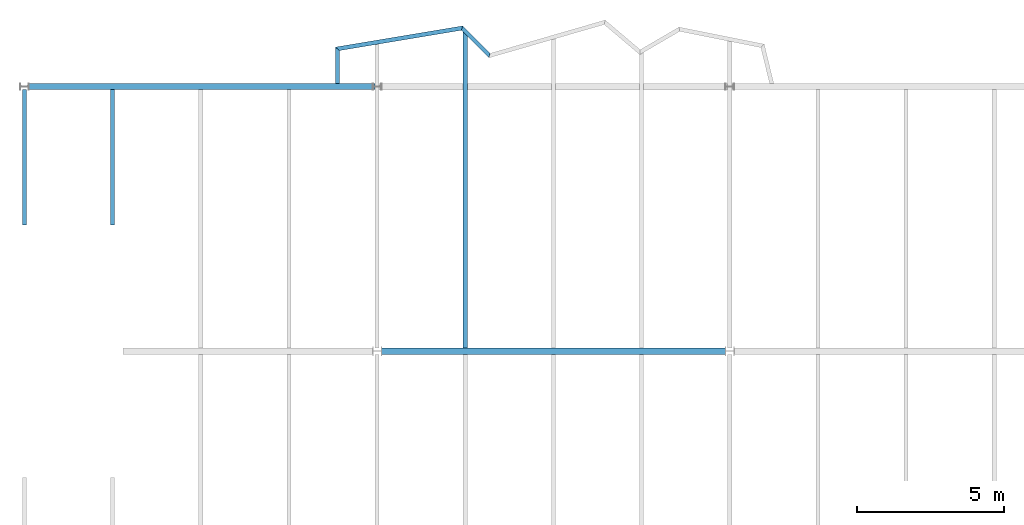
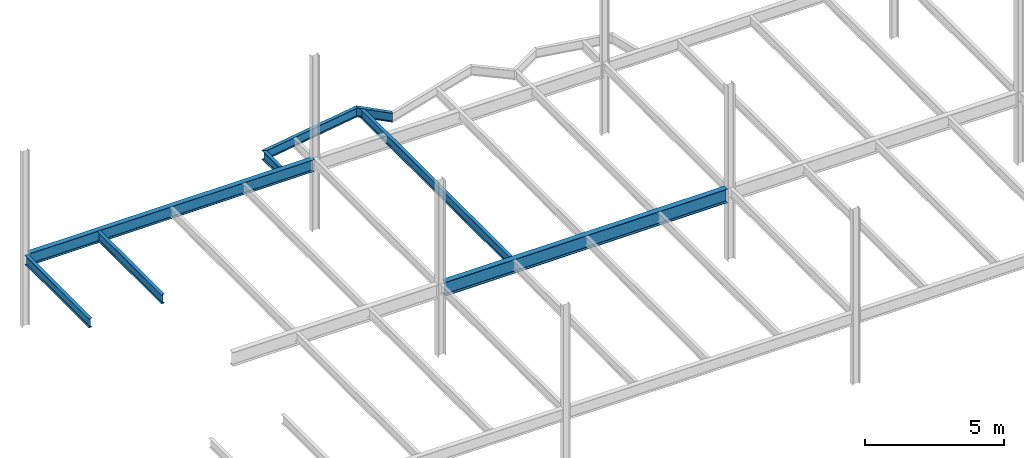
# One storey, part 5 of 23: 8 beams.
"""IFC2X3 building model written with IfcOpenShell, lengths in millimetres."""

from ifc_helpers import new_model, si_unit, origin, place, context, project, spatial, faceted_brep, material, element, save


model = new_model("IFC2X3")

# Units and contexts
context_of_model = context(None, 3, precision=1e-05, world=origin())
ifc_project = project(units=[si_unit("LENGTHUNIT", "METRE", prefix="MILLI")], contexts=[context_of_model])

# Building, storey
building = spatial("IfcBuilding", under=ifc_project, Name="Building", CompositionType="ELEMENT")
storey = spatial("IfcBuildingStorey", under=building, Name="FL5-FRM", CompositionType="ELEMENT")

# Beams
ifc_material_1 = material(Name="A992")
beam_1_placement = place(None, origin())
element("IfcBeam", 1, at=beam_1_placement, inside=storey, material=ifc_material_1, Name="Column402", context=context_of_model, shape_type="Brep", body=[
    faceted_brep([(-47846.0, 26885.5, 17261.0), (-47846.0, 27114.5, 17261.0), (-36154.0, 27114.5, 17261.0), (-36154.0, 26885.5, 17261.0), (-47846.0, 27114.5, 17280.6), (-36154.0, 27114.5, 17280.6), (-47846.0, 27018.6, 17280.6), (-36154.0, 27018.6, 17280.6), (-47846.0, 27015.4, 17281.0), (-36154.0, 27015.4, 17281.0), (-47846.0, 27012.3, 17282.3), (-36154.0, 27012.3, 17282.3), (-47846.0, 27009.7, 17284.3), (-36154.0, 27009.7, 17284.3), (-47846.0, 27007.7, 17287.0), (-36154.0, 27007.7, 17287.0), (-47846.0, 27006.4, 17290.0), (-36154.0, 27006.4, 17290.0), (-47846.0, 27005.9, 17293.3), (-36154.0, 27005.9, 17293.3), (-47846.0, 27005.9, 17840.7), (-36154.0, 27005.9, 17840.7), (-47846.0, 27006.4, 17844.0), (-36154.0, 27006.4, 17844.0), (-47846.0, 27007.7, 17847.0), (-36154.0, 27007.7, 17847.0), (-47846.0, 27009.7, 17849.7), (-36154.0, 27009.7, 17849.7), (-47846.0, 27012.3, 17851.7), (-36154.0, 27012.3, 17851.7), (-47846.0, 27015.4, 17853.0), (-36154.0, 27015.4, 17853.0), (-47846.0, 27018.6, 17853.4), (-36154.0, 27018.6, 17853.4), (-47846.0, 27114.5, 17853.4), (-36154.0, 27114.5, 17853.4), (-47846.0, 27114.5, 17873.0), (-36154.0, 27114.5, 17873.0), (-47846.0, 26885.5, 17873.0), (-36154.0, 26885.5, 17873.0), (-47846.0, 26885.5, 17853.4), (-36154.0, 26885.5, 17853.4), (-47846.0, 26981.4, 17853.4), (-36154.0, 26981.4, 17853.4), (-47846.0, 26984.6, 17853.0), (-36154.0, 26984.6, 17853.0), (-47846.0, 26987.7, 17851.7), (-36154.0, 26987.7, 17851.7), (-47846.0, 26990.3, 17849.7), (-36154.0, 26990.3, 17849.7), (-47846.0, 26992.3, 17847.0), (-36154.0, 26992.3, 17847.0), (-47846.0, 26993.6, 17844.0), (-36154.0, 26993.6, 17844.0), (-47846.0, 26994.1, 17840.7), (-36154.0, 26994.1, 17840.7), (-47846.0, 26994.1, 17293.3), (-36154.0, 26994.1, 17293.3), (-47846.0, 26993.6, 17290.0), (-36154.0, 26993.6, 17290.0), (-47846.0, 26992.3, 17287.0), (-36154.0, 26992.3, 17287.0), (-47846.0, 26990.3, 17284.3), (-36154.0, 26990.3, 17284.3), (-47846.0, 26987.7, 17282.3), (-36154.0, 26987.7, 17282.3), (-47846.0, 26984.6, 17281.0), (-36154.0, 26984.6, 17281.0), (-47846.0, 26981.4, 17280.6), (-36154.0, 26981.4, 17280.6), (-47846.0, 26885.5, 17280.6), (-36154.0, 26885.5, 17280.6)], [[[0, 1, 2, 3]], [[1, 4, 5, 2]], [[4, 6, 7, 5]], [[6, 8, 9, 7]], [[8, 10, 11, 9]], [[10, 12, 13, 11]], [[12, 14, 15, 13]], [[14, 16, 17, 15]], [[16, 18, 19, 17]], [[18, 20, 21, 19]], [[20, 22, 23, 21]], [[22, 24, 25, 23]], [[24, 26, 27, 25]], [[26, 28, 29, 27]], [[28, 30, 31, 29]], [[30, 32, 33, 31]], [[32, 34, 35, 33]], [[34, 36, 37, 35]], [[36, 38, 39, 37]], [[38, 40, 41, 39]], [[40, 42, 43, 41]], [[42, 44, 45, 43]], [[44, 46, 47, 45]], [[46, 48, 49, 47]], [[48, 50, 51, 49]], [[50, 52, 53, 51]], [[52, 54, 55, 53]], [[54, 56, 57, 55]], [[56, 58, 59, 57]], [[58, 60, 61, 59]], [[60, 62, 63, 61]], [[62, 64, 65, 63]], [[64, 66, 67, 65]], [[66, 68, 69, 67]], [[68, 70, 71, 69]], [[70, 0, 3, 71]], [[0, 70, 68, 66, 64, 62, 60, 58, 56, 54, 52, 50, 48, 46, 44, 42, 40, 38, 36, 34, 32, 30, 28, 26, 24, 22, 20, 18, 16, 14, 12, 10, 8, 6, 4, 1]], [[3, 2, 5, 7, 9, 11, 13, 15, 17, 19, 21, 23, 25, 27, 29, 31, 33, 35, 37, 39, 41, 43, 45, 47, 49, 51, 53, 55, 57, 59, 61, 63, 65, 67, 69, 71]]]),
])
ifc_material_2 = material(Name="A992")
beam_2_placement = place(None, origin())
element("IfcBeam", 2, at=beam_2_placement, inside=storey, material=ifc_material_2, Name="B253", context=context_of_model, shape_type="Brep", body=[
    faceted_brep([(-45070.0, 37851.8, 17474.0), (-44930.0, 37711.8, 17474.0), (-44930.0, 27114.5, 17474.0), (-45070.0, 27114.5, 17474.0), (-44930.0, 37711.8, 17482.8), (-44930.0, 27114.5, 17482.8), (-44986.6, 37768.4, 17482.8), (-44986.6, 27114.5, 17482.8), (-44988.0, 37769.8, 17482.9), (-44988.1, 27114.5, 17482.9), (-44989.5, 37771.2, 17483.2), (-44989.5, 27114.5, 17483.2), (-44990.8, 37772.6, 17483.7), (-44990.8, 27114.5, 17483.7), (-44992.1, 37773.8, 17484.4), (-44992.1, 27114.5, 17484.4), (-44993.3, 37775.0, 17485.3), (-44993.3, 27114.5, 17485.3), (-44994.3, 37776.0, 17486.3), (-44994.3, 27114.5, 17486.3), (-44995.2, 37776.9, 17487.4), (-44995.2, 27114.5, 17487.5), (-44995.9, 37777.6, 17488.7), (-44995.9, 27114.5, 17488.8), (-44996.4, 37778.1, 17490.1), (-44996.4, 27114.5, 17490.1), (-44996.7, 37778.4, 17491.5), (-44996.7, 27114.5, 17491.5), (-44996.8, 37778.6, 17493.0), (-44996.8, 27114.5, 17493.0), (-44996.8, 37778.6, 17854.0), (-44996.8, 27114.5, 17854.0), (-44996.7, 37778.4, 17855.5), (-44996.7, 27114.5, 17855.5), (-44996.4, 37778.1, 17856.9), (-44996.4, 27114.5, 17856.9), (-44995.9, 37777.6, 17858.3), (-44995.9, 27114.5, 17858.2), (-44995.2, 37776.9, 17859.6), (-44995.2, 27114.5, 17859.5), (-44994.3, 37776.0, 17860.7), (-44994.3, 27114.5, 17860.7), (-44993.3, 37775.0, 17861.7), (-44993.3, 27114.5, 17861.7), (-44992.1, 37773.8, 17862.6), (-44992.1, 27114.5, 17862.6), (-44990.8, 37772.6, 17863.3), (-44990.8, 27114.5, 17863.3), (-44989.5, 37771.2, 17863.8), (-44989.5, 27114.5, 17863.8), (-44988.0, 37769.8, 17864.1), (-44988.1, 27114.5, 17864.1), (-44986.6, 37768.4, 17864.2), (-44986.6, 27114.5, 17864.2), (-44930.0, 37711.8, 17864.2), (-44930.0, 27114.5, 17864.2), (-44930.0, 37711.8, 17873.0), (-44930.0, 27114.5, 17873.0), (-45070.0, 37851.8, 17873.0), (-45070.0, 27114.5, 17873.0), (-45070.0, 37851.8, 17864.2), (-45070.0, 27114.5, 17864.2), (-45013.4, 37795.2, 17864.2), (-45013.4, 27114.5, 17864.2), (-45012.0, 37793.7, 17864.1), (-45011.9, 27114.5, 17864.1), (-45010.5, 37792.3, 17863.8), (-45010.5, 27114.5, 17863.8), (-45009.2, 37790.9, 17863.3), (-45009.2, 27114.5, 17863.3), (-45007.9, 37789.7, 17862.6), (-45007.9, 27114.5, 17862.6), (-45006.7, 37788.5, 17861.7), (-45006.7, 27114.5, 17861.7), (-45005.7, 37787.5, 17860.7), (-45005.7, 27114.5, 17860.7), (-45004.8, 37786.6, 17859.6), (-45004.8, 27114.5, 17859.5), (-45004.1, 37785.9, 17858.3), (-45004.1, 27114.5, 17858.2), (-45003.6, 37785.4, 17856.9), (-45003.6, 27114.5, 17856.9), (-45003.3, 37785.1, 17855.5), (-45003.3, 27114.5, 17855.5), (-45003.2, 37785.0, 17854.0), (-45003.2, 27114.5, 17854.0), (-45003.2, 37785.0, 17493.0), (-45003.2, 27114.5, 17493.0), (-45003.3, 37785.1, 17491.5), (-45003.3, 27114.5, 17491.5), (-45003.6, 37785.4, 17490.1), (-45003.6, 27114.5, 17490.1), (-45004.1, 37785.9, 17488.7), (-45004.1, 27114.5, 17488.8), (-45004.8, 37786.6, 17487.4), (-45004.8, 27114.5, 17487.5), (-45005.7, 37787.5, 17486.3), (-45005.7, 27114.5, 17486.3), (-45006.7, 37788.5, 17485.3), (-45006.7, 27114.5, 17485.3), (-45007.9, 37789.7, 17484.4), (-45007.9, 27114.5, 17484.4), (-45009.2, 37790.9, 17483.7), (-45009.2, 27114.5, 17483.7), (-45010.5, 37792.3, 17483.2), (-45010.5, 27114.5, 17483.2), (-45012.0, 37793.7, 17482.9), (-45011.9, 27114.5, 17482.9), (-45013.4, 37795.2, 17482.8), (-45013.4, 27114.5, 17482.8), (-45070.0, 37851.8, 17482.8), (-45070.0, 27114.5, 17482.8)], [[[0, 1, 2, 3]], [[1, 4, 5, 2]], [[4, 6, 7, 5]], [[6, 8, 9, 7]], [[8, 10, 11, 9]], [[10, 12, 13, 11]], [[12, 14, 15, 13]], [[14, 16, 17, 15]], [[16, 18, 19, 17]], [[18, 20, 21, 19]], [[20, 22, 23, 21]], [[22, 24, 25, 23]], [[24, 26, 27, 25]], [[26, 28, 29, 27]], [[28, 30, 31, 29]], [[30, 32, 33, 31]], [[32, 34, 35, 33]], [[34, 36, 37, 35]], [[36, 38, 39, 37]], [[38, 40, 41, 39]], [[40, 42, 43, 41]], [[42, 44, 45, 43]], [[44, 46, 47, 45]], [[46, 48, 49, 47]], [[48, 50, 51, 49]], [[50, 52, 53, 51]], [[52, 54, 55, 53]], [[54, 56, 57, 55]], [[56, 58, 59, 57]], [[58, 60, 61, 59]], [[60, 62, 63, 61]], [[62, 64, 65, 63]], [[64, 66, 67, 65]], [[66, 68, 69, 67]], [[68, 70, 71, 69]], [[70, 72, 73, 71]], [[72, 74, 75, 73]], [[74, 76, 77, 75]], [[76, 78, 79, 77]], [[78, 80, 81, 79]], [[80, 82, 83, 81]], [[82, 84, 85, 83]], [[84, 86, 87, 85]], [[86, 88, 89, 87]], [[88, 90, 91, 89]], [[90, 92, 93, 91]], [[92, 94, 95, 93]], [[94, 96, 97, 95]], [[96, 98, 99, 97]], [[98, 100, 101, 99]], [[100, 102, 103, 101]], [[102, 104, 105, 103]], [[104, 106, 107, 105]], [[106, 108, 109, 107]], [[108, 110, 111, 109]], [[110, 0, 3, 111]], [[0, 110, 108, 106, 104, 102, 100, 98, 96, 94, 92, 90, 88, 86, 84, 82, 80, 78, 76, 74, 72, 70, 68, 66, 64, 62, 60, 58, 56, 54, 52, 50, 48, 46, 44, 42, 40, 38, 36, 34, 32, 30, 28, 26, 24, 22, 20, 18, 16, 14, 12, 10, 8, 6, 4, 1]], [[3, 2, 5, 7, 9, 11, 13, 15, 17, 19, 21, 23, 25, 27, 29, 31, 33, 35, 37, 39, 41, 43, 45, 47, 49, 51, 53, 55, 57, 59, 61, 63, 65, 67, 69, 71, 73, 75, 77, 79, 81, 83, 85, 87, 89, 91, 93, 95, 97, 99, 101, 103, 105, 107, 109, 111]]]),
])
ifc_material_3 = material(Name="A992")
beam_3_placement = place(None, origin())
element("IfcBeam", 3, at=beam_3_placement, inside=storey, material=ifc_material_3, Name="Column409", context=context_of_model, shape_type="Brep", body=[
    faceted_brep([(-59848.5, 35895.5, 17345.0), (-59848.5, 36104.5, 17345.0), (-48070.0, 36104.5, 17345.0), (-48070.0, 35895.5, 17345.0), (-59848.5, 36104.5, 17358.3), (-48070.0, 36104.5, 17358.3), (-59848.5, 36017.4, 17358.3), (-48070.0, 36017.4, 17358.3), (-59848.5, 36014.2, 17358.7), (-48070.0, 36014.2, 17358.7), (-59848.5, 36011.1, 17360.0), (-48070.0, 36011.1, 17360.0), (-59848.5, 36008.5, 17362.0), (-48070.0, 36008.5, 17362.0), (-59848.5, 36006.5, 17364.7), (-48070.0, 36006.5, 17364.7), (-59848.5, 36005.2, 17367.7), (-48070.0, 36005.2, 17367.7), (-59848.5, 36004.8, 17371.0), (-48070.0, 36004.8, 17371.0), (-59848.5, 36004.8, 17847.0), (-48070.0, 36004.8, 17847.0), (-59848.5, 36005.2, 17850.3), (-48070.0, 36005.2, 17850.3), (-59848.5, 36006.5, 17853.3), (-48070.0, 36006.5, 17853.3), (-59848.5, 36008.5, 17856.0), (-48070.0, 36008.5, 17856.0), (-59848.5, 36011.1, 17858.0), (-48070.0, 36011.1, 17858.0), (-59848.5, 36014.2, 17859.3), (-48070.0, 36014.2, 17859.3), (-59848.5, 36017.4, 17859.7), (-48070.0, 36017.4, 17859.7), (-59848.5, 36104.5, 17859.7), (-48070.0, 36104.5, 17859.7), (-59848.5, 36104.5, 17873.0), (-48070.0, 36104.5, 17873.0), (-59848.5, 35895.5, 17873.0), (-48070.0, 35895.5, 17873.0), (-59848.5, 35895.5, 17859.7), (-48070.0, 35895.5, 17859.7), (-59848.5, 35982.6, 17859.7), (-48070.0, 35982.6, 17859.7), (-59848.5, 35985.8, 17859.3), (-48070.0, 35985.8, 17859.3), (-59848.5, 35988.9, 17858.0), (-48070.0, 35988.9, 17858.0), (-59848.5, 35991.5, 17856.0), (-48070.0, 35991.5, 17856.0), (-59848.5, 35993.5, 17853.3), (-48070.0, 35993.5, 17853.3), (-59848.5, 35994.8, 17850.3), (-48070.0, 35994.8, 17850.3), (-59848.5, 35995.3, 17847.0), (-48070.0, 35995.3, 17847.0), (-59848.5, 35995.3, 17371.0), (-48070.0, 35995.3, 17371.0), (-59848.5, 35994.8, 17367.7), (-48070.0, 35994.8, 17367.7), (-59848.5, 35993.5, 17364.7), (-48070.0, 35993.5, 17364.7), (-59848.5, 35991.5, 17362.0), (-48070.0, 35991.5, 17362.0), (-59848.5, 35988.9, 17360.0), (-48070.0, 35988.9, 17360.0), (-59848.5, 35985.8, 17358.7), (-48070.0, 35985.8, 17358.7), (-59848.5, 35982.6, 17358.3), (-48070.0, 35982.6, 17358.3), (-59848.5, 35895.5, 17358.3), (-48070.0, 35895.5, 17358.3)], [[[0, 1, 2, 3]], [[1, 4, 5, 2]], [[4, 6, 7, 5]], [[6, 8, 9, 7]], [[8, 10, 11, 9]], [[10, 12, 13, 11]], [[12, 14, 15, 13]], [[14, 16, 17, 15]], [[16, 18, 19, 17]], [[18, 20, 21, 19]], [[20, 22, 23, 21]], [[22, 24, 25, 23]], [[24, 26, 27, 25]], [[26, 28, 29, 27]], [[28, 30, 31, 29]], [[30, 32, 33, 31]], [[32, 34, 35, 33]], [[34, 36, 37, 35]], [[36, 38, 39, 37]], [[38, 40, 41, 39]], [[40, 42, 43, 41]], [[42, 44, 45, 43]], [[44, 46, 47, 45]], [[46, 48, 49, 47]], [[48, 50, 51, 49]], [[50, 52, 53, 51]], [[52, 54, 55, 53]], [[54, 56, 57, 55]], [[56, 58, 59, 57]], [[58, 60, 61, 59]], [[60, 62, 63, 61]], [[62, 64, 65, 63]], [[64, 66, 67, 65]], [[66, 68, 69, 67]], [[68, 70, 71, 69]], [[70, 0, 3, 71]], [[0, 70, 68, 66, 64, 62, 60, 58, 56, 54, 52, 50, 48, 46, 44, 42, 40, 38, 36, 34, 32, 30, 28, 26, 24, 22, 20, 18, 16, 14, 12, 10, 8, 6, 4, 1]], [[3, 2, 5, 7, 9, 11, 13, 15, 17, 19, 21, 23, 25, 27, 29, 31, 33, 35, 37, 39, 41, 43, 45, 47, 49, 51, 53, 55, 57, 59, 61, 63, 65, 67, 69, 71]]]),
])
ifc_material_4 = material(Name="A992")
beam_4_placement = place(None, origin())
element("IfcBeam", 4, at=beam_4_placement, inside=storey, material=ifc_material_4, Name="B959", context=context_of_model, shape_type="Brep", body=[
    faceted_brep([(-57070.0, 35895.5, 17474.0), (-56930.0, 35895.5, 17474.0), (-56930.0, 31300.0, 17474.0), (-57070.0, 31300.0, 17474.0), (-56930.0, 35895.5, 17482.8), (-56930.0, 31300.0, 17482.8), (-56986.6, 35895.5, 17482.8), (-56986.6, 31300.0, 17482.8), (-56989.2, 35895.5, 17483.1), (-56989.2, 31300.0, 17483.1), (-56991.7, 35895.5, 17484.2), (-56991.7, 31300.0, 17484.2), (-56993.8, 35895.5, 17485.8), (-56993.8, 31300.0, 17485.8), (-56995.4, 35895.5, 17487.9), (-56995.4, 31300.0, 17487.9), (-56996.5, 35895.5, 17490.4), (-56996.5, 31300.0, 17490.4), (-56996.8, 35895.5, 17493.0), (-56996.8, 31300.0, 17493.0), (-56996.8, 35895.5, 17854.0), (-56996.8, 31300.0, 17854.0), (-56996.5, 35895.5, 17856.6), (-56996.5, 31300.0, 17856.6), (-56995.4, 35895.5, 17859.1), (-56995.4, 31300.0, 17859.1), (-56993.8, 35895.5, 17861.2), (-56993.8, 31300.0, 17861.2), (-56991.7, 35895.5, 17862.8), (-56991.7, 31300.0, 17862.8), (-56989.2, 35895.5, 17863.9), (-56989.2, 31300.0, 17863.9), (-56986.6, 35895.5, 17864.2), (-56986.6, 31300.0, 17864.2), (-56930.0, 35895.5, 17864.2), (-56930.0, 31300.0, 17864.2), (-56930.0, 35895.5, 17873.0), (-56930.0, 31300.0, 17873.0), (-57070.0, 35895.5, 17873.0), (-57070.0, 31300.0, 17873.0), (-57070.0, 35895.5, 17864.2), (-57070.0, 31300.0, 17864.2), (-57013.4, 35895.5, 17864.2), (-57013.4, 31300.0, 17864.2), (-57010.8, 35895.5, 17863.9), (-57010.8, 31300.0, 17863.9), (-57008.3, 35895.5, 17862.8), (-57008.3, 31300.0, 17862.8), (-57006.2, 35895.5, 17861.2), (-57006.2, 31300.0, 17861.2), (-57004.6, 35895.5, 17859.1), (-57004.6, 31300.0, 17859.1), (-57003.5, 35895.5, 17856.6), (-57003.5, 31300.0, 17856.6), (-57003.2, 35895.5, 17854.0), (-57003.2, 31300.0, 17854.0), (-57003.2, 35895.5, 17493.0), (-57003.2, 31300.0, 17493.0), (-57003.5, 35895.5, 17490.4), (-57003.5, 31300.0, 17490.4), (-57004.6, 35895.5, 17487.9), (-57004.6, 31300.0, 17487.9), (-57006.2, 35895.5, 17485.8), (-57006.2, 31300.0, 17485.8), (-57008.3, 35895.5, 17484.2), (-57008.3, 31300.0, 17484.2), (-57010.8, 35895.5, 17483.1), (-57010.8, 31300.0, 17483.1), (-57013.4, 35895.5, 17482.8), (-57013.4, 31300.0, 17482.8), (-57070.0, 35895.5, 17482.8), (-57070.0, 31300.0, 17482.8)], [[[0, 1, 2, 3]], [[1, 4, 5, 2]], [[4, 6, 7, 5]], [[6, 8, 9, 7]], [[8, 10, 11, 9]], [[10, 12, 13, 11]], [[12, 14, 15, 13]], [[14, 16, 17, 15]], [[16, 18, 19, 17]], [[18, 20, 21, 19]], [[20, 22, 23, 21]], [[22, 24, 25, 23]], [[24, 26, 27, 25]], [[26, 28, 29, 27]], [[28, 30, 31, 29]], [[30, 32, 33, 31]], [[32, 34, 35, 33]], [[34, 36, 37, 35]], [[36, 38, 39, 37]], [[38, 40, 41, 39]], [[40, 42, 43, 41]], [[42, 44, 45, 43]], [[44, 46, 47, 45]], [[46, 48, 49, 47]], [[48, 50, 51, 49]], [[50, 52, 53, 51]], [[52, 54, 55, 53]], [[54, 56, 57, 55]], [[56, 58, 59, 57]], [[58, 60, 61, 59]], [[60, 62, 63, 61]], [[62, 64, 65, 63]], [[64, 66, 67, 65]], [[66, 68, 69, 67]], [[68, 70, 71, 69]], [[70, 0, 3, 71]], [[0, 70, 68, 66, 64, 62, 60, 58, 56, 54, 52, 50, 48, 46, 44, 42, 40, 38, 36, 34, 32, 30, 28, 26, 24, 22, 20, 18, 16, 14, 12, 10, 8, 6, 4, 1]], [[3, 2, 5, 7, 9, 11, 13, 15, 17, 19, 21, 23, 25, 27, 29, 31, 33, 35, 37, 39, 41, 43, 45, 47, 49, 51, 53, 55, 57, 59, 61, 63, 65, 67, 69, 71]]]),
])
ifc_material_5 = material(Name="A992")
beam_5_placement = place(None, origin())
element("IfcBeam", 5, at=beam_5_placement, inside=storey, material=ifc_material_5, Name="B961", context=context_of_model, shape_type="Brep", body=[
    faceted_brep([(-60070.0, 35895.5, 17474.0), (-59930.0, 35895.5, 17474.0), (-59930.0, 31300.0, 17474.0), (-60070.0, 31300.0, 17474.0), (-59930.0, 35895.5, 17482.8), (-59930.0, 31300.0, 17482.8), (-59986.6, 35895.5, 17482.8), (-59986.6, 31300.0, 17482.8), (-59989.2, 35895.5, 17483.1), (-59989.2, 31300.0, 17483.1), (-59991.7, 35895.5, 17484.2), (-59991.7, 31300.0, 17484.2), (-59993.8, 35895.5, 17485.8), (-59993.8, 31300.0, 17485.8), (-59995.4, 35895.5, 17487.9), (-59995.4, 31300.0, 17487.9), (-59996.5, 35895.5, 17490.4), (-59996.5, 31300.0, 17490.4), (-59996.8, 35895.5, 17493.0), (-59996.8, 31300.0, 17493.0), (-59996.8, 35895.5, 17854.0), (-59996.8, 31300.0, 17854.0), (-59996.5, 35895.5, 17856.6), (-59996.5, 31300.0, 17856.6), (-59995.4, 35895.5, 17859.1), (-59995.4, 31300.0, 17859.1), (-59993.8, 35895.5, 17861.2), (-59993.8, 31300.0, 17861.2), (-59991.7, 35895.5, 17862.8), (-59991.7, 31300.0, 17862.8), (-59989.2, 35895.5, 17863.9), (-59989.2, 31300.0, 17863.9), (-59986.6, 35895.5, 17864.2), (-59986.6, 31300.0, 17864.2), (-59930.0, 35895.5, 17864.2), (-59930.0, 31300.0, 17864.2), (-59930.0, 35895.5, 17873.0), (-59930.0, 31300.0, 17873.0), (-60070.0, 35895.5, 17873.0), (-60070.0, 31300.0, 17873.0), (-60070.0, 35895.5, 17864.2), (-60070.0, 31300.0, 17864.2), (-60013.4, 35895.5, 17864.2), (-60013.4, 31300.0, 17864.2), (-60010.8, 35895.5, 17863.9), (-60010.8, 31300.0, 17863.9), (-60008.3, 35895.5, 17862.8), (-60008.3, 31300.0, 17862.8), (-60006.2, 35895.5, 17861.2), (-60006.2, 31300.0, 17861.2), (-60004.6, 35895.5, 17859.1), (-60004.6, 31300.0, 17859.1), (-60003.5, 35895.5, 17856.6), (-60003.5, 31300.0, 17856.6), (-60003.2, 35895.5, 17854.0), (-60003.2, 31300.0, 17854.0), (-60003.2, 35895.5, 17493.0), (-60003.2, 31300.0, 17493.0), (-60003.5, 35895.5, 17490.4), (-60003.5, 31300.0, 17490.4), (-60004.6, 35895.5, 17487.9), (-60004.6, 31300.0, 17487.9), (-60006.2, 35895.5, 17485.8), (-60006.2, 31300.0, 17485.8), (-60008.3, 35895.5, 17484.2), (-60008.3, 31300.0, 17484.2), (-60010.8, 35895.5, 17483.1), (-60010.8, 31300.0, 17483.1), (-60013.4, 35895.5, 17482.8), (-60013.4, 31300.0, 17482.8), (-60070.0, 35895.5, 17482.8), (-60070.0, 31300.0, 17482.8)], [[[0, 1, 2, 3]], [[1, 4, 5, 2]], [[4, 6, 7, 5]], [[6, 8, 9, 7]], [[8, 10, 11, 9]], [[10, 12, 13, 11]], [[12, 14, 15, 13]], [[14, 16, 17, 15]], [[16, 18, 19, 17]], [[18, 20, 21, 19]], [[20, 22, 23, 21]], [[22, 24, 25, 23]], [[24, 26, 27, 25]], [[26, 28, 29, 27]], [[28, 30, 31, 29]], [[30, 32, 33, 31]], [[32, 34, 35, 33]], [[34, 36, 37, 35]], [[36, 38, 39, 37]], [[38, 40, 41, 39]], [[40, 42, 43, 41]], [[42, 44, 45, 43]], [[44, 46, 47, 45]], [[46, 48, 49, 47]], [[48, 50, 51, 49]], [[50, 52, 53, 51]], [[52, 54, 55, 53]], [[54, 56, 57, 55]], [[56, 58, 59, 57]], [[58, 60, 61, 59]], [[60, 62, 63, 61]], [[62, 64, 65, 63]], [[64, 66, 67, 65]], [[66, 68, 69, 67]], [[68, 70, 71, 69]], [[70, 0, 3, 71]], [[0, 70, 68, 66, 64, 62, 60, 58, 56, 54, 52, 50, 48, 46, 44, 42, 40, 38, 36, 34, 32, 30, 28, 26, 24, 22, 20, 18, 16, 14, 12, 10, 8, 6, 4, 1]], [[3, 2, 5, 7, 9, 11, 13, 15, 17, 19, 21, 23, 25, 27, 29, 31, 33, 35, 37, 39, 41, 43, 45, 47, 49, 51, 53, 55, 57, 59, 61, 63, 65, 67, 69, 71]]]),
])
ifc_material_6 = material(Name="A992")
beam_6_placement = place(None, origin())
element("IfcBeam", 6, at=beam_6_placement, inside=storey, material=ifc_material_6, Name="B963", context=context_of_model, shape_type="Brep", body=[
    faceted_brep([(-49280.0, 36104.5, 17474.0), (-49420.0, 36104.5, 17474.0), (-49420.0, 37344.5, 17474.0), (-49280.0, 37225.9, 17474.0), (-49420.0, 36104.5, 17482.8), (-49420.0, 37344.5, 17482.8), (-49363.4, 36104.5, 17482.8), (-49363.4, 37296.6, 17482.8), (-49361.8, 36104.5, 17482.9), (-49361.8, 37295.2, 17482.9), (-49360.2, 36104.5, 17483.3), (-49360.3, 37293.9, 17483.3), (-49358.8, 36104.5, 17483.9), (-49358.8, 37292.7, 17483.9), (-49357.4, 36104.5, 17484.7), (-49357.4, 37291.5, 17484.7), (-49356.2, 36104.5, 17485.8), (-49356.2, 37290.5, 17485.8), (-49355.1, 36104.5, 17487.0), (-49355.2, 37289.6, 17487.0), (-49354.3, 36104.5, 17488.4), (-49354.3, 37288.9, 17488.3), (-49353.7, 36104.5, 17489.8), (-49353.7, 37288.4, 17489.8), (-49353.3, 36104.5, 17491.4), (-49353.4, 37288.1, 17491.4), (-49353.2, 36104.5, 17493.0), (-49353.2, 37287.9, 17493.0), (-49353.2, 36104.5, 17854.0), (-49353.2, 37287.9, 17854.0), (-49353.3, 36104.5, 17855.6), (-49353.4, 37288.1, 17855.6), (-49353.7, 36104.5, 17857.2), (-49353.7, 37288.4, 17857.2), (-49354.3, 36104.5, 17858.6), (-49354.3, 37288.9, 17858.7), (-49355.1, 36104.5, 17860.0), (-49355.2, 37289.6, 17860.0), (-49356.2, 36104.5, 17861.2), (-49356.2, 37290.5, 17861.2), (-49357.4, 36104.5, 17862.3), (-49357.4, 37291.5, 17862.3), (-49358.8, 36104.5, 17863.1), (-49358.8, 37292.7, 17863.1), (-49360.2, 36104.5, 17863.7), (-49360.3, 37293.9, 17863.7), (-49361.8, 36104.5, 17864.1), (-49361.8, 37295.2, 17864.1), (-49363.4, 36104.5, 17864.2), (-49363.4, 37296.6, 17864.2), (-49420.0, 36104.5, 17864.2), (-49420.0, 37344.5, 17864.2), (-49420.0, 36104.5, 17873.0), (-49420.0, 37344.5, 17873.0), (-49280.0, 36104.5, 17873.0), (-49280.0, 37225.9, 17873.0), (-49280.0, 36104.5, 17864.2), (-49280.0, 37225.9, 17864.2), (-49336.6, 36104.5, 17864.2), (-49336.6, 37273.9, 17864.2), (-49338.2, 36104.5, 17864.1), (-49338.2, 37275.2, 17864.1), (-49339.8, 36104.5, 17863.7), (-49339.7, 37276.5, 17863.7), (-49341.2, 36104.5, 17863.1), (-49341.2, 37277.8, 17863.1), (-49342.6, 36104.5, 17862.3), (-49342.6, 37278.9, 17862.3), (-49343.8, 36104.5, 17861.2), (-49343.8, 37280.0, 17861.2), (-49344.9, 36104.5, 17860.0), (-49344.8, 37280.9, 17860.0), (-49345.7, 36104.5, 17858.6), (-49345.7, 37281.6, 17858.7), (-49346.3, 36104.5, 17857.2), (-49346.3, 37282.1, 17857.2), (-49346.7, 36104.5, 17855.6), (-49346.6, 37282.4, 17855.6), (-49346.8, 36104.5, 17854.0), (-49346.8, 37282.5, 17854.0), (-49346.8, 36104.5, 17493.0), (-49346.8, 37282.5, 17493.0), (-49346.7, 36104.5, 17491.4), (-49346.6, 37282.4, 17491.4), (-49346.3, 36104.5, 17489.8), (-49346.3, 37282.1, 17489.8), (-49345.7, 36104.5, 17488.4), (-49345.7, 37281.6, 17488.3), (-49344.9, 36104.5, 17487.0), (-49344.8, 37280.9, 17487.0), (-49343.8, 36104.5, 17485.8), (-49343.8, 37280.0, 17485.8), (-49342.6, 36104.5, 17484.7), (-49342.6, 37278.9, 17484.7), (-49341.2, 36104.5, 17483.9), (-49341.2, 37277.8, 17483.9), (-49339.8, 36104.5, 17483.3), (-49339.7, 37276.5, 17483.3), (-49338.2, 36104.5, 17482.9), (-49338.2, 37275.2, 17482.9), (-49336.6, 36104.5, 17482.8), (-49336.6, 37273.9, 17482.8), (-49280.0, 36104.5, 17482.8), (-49280.0, 37225.9, 17482.8)], [[[0, 1, 2, 3]], [[1, 4, 5, 2]], [[4, 6, 7, 5]], [[6, 8, 9, 7]], [[8, 10, 11, 9]], [[10, 12, 13, 11]], [[12, 14, 15, 13]], [[14, 16, 17, 15]], [[16, 18, 19, 17]], [[18, 20, 21, 19]], [[20, 22, 23, 21]], [[22, 24, 25, 23]], [[24, 26, 27, 25]], [[26, 28, 29, 27]], [[28, 30, 31, 29]], [[30, 32, 33, 31]], [[32, 34, 35, 33]], [[34, 36, 37, 35]], [[36, 38, 39, 37]], [[38, 40, 41, 39]], [[40, 42, 43, 41]], [[42, 44, 45, 43]], [[44, 46, 47, 45]], [[46, 48, 49, 47]], [[48, 50, 51, 49]], [[50, 52, 53, 51]], [[52, 54, 55, 53]], [[54, 56, 57, 55]], [[56, 58, 59, 57]], [[58, 60, 61, 59]], [[60, 62, 63, 61]], [[62, 64, 65, 63]], [[64, 66, 67, 65]], [[66, 68, 69, 67]], [[68, 70, 71, 69]], [[70, 72, 73, 71]], [[72, 74, 75, 73]], [[74, 76, 77, 75]], [[76, 78, 79, 77]], [[78, 80, 81, 79]], [[80, 82, 83, 81]], [[82, 84, 85, 83]], [[84, 86, 87, 85]], [[86, 88, 89, 87]], [[88, 90, 91, 89]], [[90, 92, 93, 91]], [[92, 94, 95, 93]], [[94, 96, 97, 95]], [[96, 98, 99, 97]], [[98, 100, 101, 99]], [[100, 102, 103, 101]], [[102, 0, 3, 103]], [[0, 102, 100, 98, 96, 94, 92, 90, 88, 86, 84, 82, 80, 78, 76, 74, 72, 70, 68, 66, 64, 62, 60, 58, 56, 54, 52, 50, 48, 46, 44, 42, 40, 38, 36, 34, 32, 30, 28, 26, 24, 22, 20, 18, 16, 14, 12, 10, 8, 6, 4, 1]], [[3, 2, 5, 7, 9, 11, 13, 15, 17, 19, 21, 23, 25, 27, 29, 31, 33, 35, 37, 39, 41, 43, 45, 47, 49, 51, 53, 55, 57, 59, 61, 63, 65, 67, 69, 71, 73, 75, 77, 79, 81, 83, 85, 87, 89, 91, 93, 95, 97, 99, 101, 103]]]),
])
ifc_material_7 = material(Name="A992")
beam_7_placement = place(None, origin())
element("IfcBeam", 7, at=beam_7_placement, inside=storey, material=ifc_material_7, Name="B964", context=context_of_model, shape_type="Brep", body=[
    faceted_brep([(-49280.0, 37225.9, 17474.0), (-49420.0, 37344.5, 17474.0), (-45087.0, 38066.7, 17474.0), (-45135.0, 37916.8, 17474.0), (-49420.0, 37344.5, 17482.8), (-45087.0, 38066.7, 17482.8), (-49363.4, 37296.6, 17482.8), (-45106.4, 38006.1, 17482.8), (-49361.8, 37295.2, 17482.9), (-45106.9, 38004.4, 17482.9), (-49360.3, 37293.9, 17483.3), (-45107.5, 38002.7, 17483.3), (-49358.8, 37292.7, 17483.9), (-45108.0, 38001.1, 17483.9), (-49357.4, 37291.5, 17484.7), (-45108.4, 37999.7, 17484.7), (-49356.2, 37290.5, 17485.8), (-45108.9, 37998.4, 17485.8), (-49355.2, 37289.6, 17487.0), (-45109.2, 37997.3, 17487.0), (-49354.3, 37288.9, 17488.3), (-45109.5, 37996.4, 17488.4), (-49353.7, 37288.4, 17489.8), (-45109.7, 37995.7, 17489.8), (-49353.4, 37288.1, 17491.4), (-45109.8, 37995.3, 17491.4), (-49353.2, 37287.9, 17493.0), (-45109.9, 37995.2, 17493.0), (-49353.2, 37287.9, 17854.0), (-45109.9, 37995.2, 17854.0), (-49353.4, 37288.1, 17855.6), (-45109.8, 37995.3, 17855.6), (-49353.7, 37288.4, 17857.2), (-45109.7, 37995.7, 17857.2), (-49354.3, 37288.9, 17858.7), (-45109.5, 37996.4, 17858.6), (-49355.2, 37289.6, 17860.0), (-45109.2, 37997.3, 17860.0), (-49356.2, 37290.5, 17861.2), (-45108.9, 37998.4, 17861.2), (-49357.4, 37291.5, 17862.3), (-45108.4, 37999.7, 17862.3), (-49358.8, 37292.7, 17863.1), (-45108.0, 38001.1, 17863.1), (-49360.3, 37293.9, 17863.7), (-45107.5, 38002.7, 17863.7), (-49361.8, 37295.2, 17864.1), (-45106.9, 38004.4, 17864.1), (-49363.4, 37296.6, 17864.2), (-45106.4, 38006.1, 17864.2), (-49420.0, 37344.5, 17864.2), (-45087.0, 38066.7, 17864.2), (-49420.0, 37344.5, 17873.0), (-45087.0, 38066.7, 17873.0), (-49280.0, 37225.9, 17873.0), (-45135.0, 37916.8, 17873.0), (-49280.0, 37225.9, 17864.2), (-45135.0, 37916.8, 17864.2), (-49336.6, 37273.9, 17864.2), (-45115.6, 37977.4, 17864.2), (-49338.2, 37275.2, 17864.1), (-45115.0, 37979.1, 17864.1), (-49339.7, 37276.5, 17863.7), (-45114.5, 37980.8, 17863.7), (-49341.2, 37277.8, 17863.1), (-45114.0, 37982.3, 17863.1), (-49342.6, 37278.9, 17862.3), (-45113.5, 37983.8, 17862.3), (-49343.8, 37280.0, 17861.2), (-45113.1, 37985.1, 17861.2), (-49344.8, 37280.9, 17860.0), (-45112.8, 37986.2, 17860.0), (-49345.7, 37281.6, 17858.7), (-45112.5, 37987.1, 17858.6), (-49346.3, 37282.1, 17857.2), (-45112.3, 37987.8, 17857.2), (-49346.6, 37282.4, 17855.6), (-45112.1, 37988.2, 17855.6), (-49346.8, 37282.5, 17854.0), (-45112.1, 37988.3, 17854.0), (-49346.8, 37282.5, 17493.0), (-45112.1, 37988.3, 17493.0), (-49346.6, 37282.4, 17491.4), (-45112.1, 37988.2, 17491.4), (-49346.3, 37282.1, 17489.8), (-45112.3, 37987.8, 17489.8), (-49345.7, 37281.6, 17488.3), (-45112.5, 37987.1, 17488.4), (-49344.8, 37280.9, 17487.0), (-45112.8, 37986.2, 17487.0), (-49343.8, 37280.0, 17485.8), (-45113.1, 37985.1, 17485.8), (-49342.6, 37278.9, 17484.7), (-45113.5, 37983.8, 17484.7), (-49341.2, 37277.8, 17483.9), (-45114.0, 37982.3, 17483.9), (-49339.7, 37276.5, 17483.3), (-45114.5, 37980.8, 17483.3), (-49338.2, 37275.2, 17482.9), (-45115.0, 37979.1, 17482.9), (-49336.6, 37273.9, 17482.8), (-45115.6, 37977.4, 17482.8), (-49280.0, 37225.9, 17482.8), (-45135.0, 37916.8, 17482.8)], [[[0, 1, 2, 3]], [[1, 4, 5, 2]], [[4, 6, 7, 5]], [[6, 8, 9, 7]], [[8, 10, 11, 9]], [[10, 12, 13, 11]], [[12, 14, 15, 13]], [[14, 16, 17, 15]], [[16, 18, 19, 17]], [[18, 20, 21, 19]], [[20, 22, 23, 21]], [[22, 24, 25, 23]], [[24, 26, 27, 25]], [[26, 28, 29, 27]], [[28, 30, 31, 29]], [[30, 32, 33, 31]], [[32, 34, 35, 33]], [[34, 36, 37, 35]], [[36, 38, 39, 37]], [[38, 40, 41, 39]], [[40, 42, 43, 41]], [[42, 44, 45, 43]], [[44, 46, 47, 45]], [[46, 48, 49, 47]], [[48, 50, 51, 49]], [[50, 52, 53, 51]], [[52, 54, 55, 53]], [[54, 56, 57, 55]], [[56, 58, 59, 57]], [[58, 60, 61, 59]], [[60, 62, 63, 61]], [[62, 64, 65, 63]], [[64, 66, 67, 65]], [[66, 68, 69, 67]], [[68, 70, 71, 69]], [[70, 72, 73, 71]], [[72, 74, 75, 73]], [[74, 76, 77, 75]], [[76, 78, 79, 77]], [[78, 80, 81, 79]], [[80, 82, 83, 81]], [[82, 84, 85, 83]], [[84, 86, 87, 85]], [[86, 88, 89, 87]], [[88, 90, 91, 89]], [[90, 92, 93, 91]], [[92, 94, 95, 93]], [[94, 96, 97, 95]], [[96, 98, 99, 97]], [[98, 100, 101, 99]], [[100, 102, 103, 101]], [[102, 0, 3, 103]], [[0, 102, 100, 98, 96, 94, 92, 90, 88, 86, 84, 82, 80, 78, 76, 74, 72, 70, 68, 66, 64, 62, 60, 58, 56, 54, 52, 50, 48, 46, 44, 42, 40, 38, 36, 34, 32, 30, 28, 26, 24, 22, 20, 18, 16, 14, 12, 10, 8, 6, 4, 1]], [[3, 2, 5, 7, 9, 11, 13, 15, 17, 19, 21, 23, 25, 27, 29, 31, 33, 35, 37, 39, 41, 43, 45, 47, 49, 51, 53, 55, 57, 59, 61, 63, 65, 67, 69, 71, 73, 75, 77, 79, 81, 83, 85, 87, 89, 91, 93, 95, 97, 99, 101, 103]]]),
])
ifc_material_8 = material(Name="A992")
beam_8_placement = place(None, origin())
element("IfcBeam", 8, at=beam_8_placement, inside=storey, material=ifc_material_8, Name="B965", context=context_of_model, shape_type="Brep", body=[
    faceted_brep([(-45135.0, 37916.8, 17474.0), (-45087.0, 38066.7, 17474.0), (-44154.7, 37134.4, 17474.0), (-44195.2, 36976.9, 17474.0), (-45087.0, 38066.7, 17482.8), (-44154.7, 37134.4, 17482.8), (-45106.4, 38006.1, 17482.8), (-44171.0, 37070.8, 17482.8), (-45106.9, 38004.4, 17482.9), (-44171.5, 37069.0, 17482.9), (-45107.5, 38002.7, 17483.3), (-44172.0, 37067.2, 17483.3), (-45108.0, 38001.1, 17483.9), (-44172.4, 37065.6, 17483.9), (-45108.4, 37999.7, 17484.7), (-44172.8, 37064.0, 17484.7), (-45108.9, 37998.4, 17485.8), (-44173.1, 37062.6, 17485.8), (-45109.2, 37997.3, 17487.0), (-44173.4, 37061.5, 17487.0), (-45109.5, 37996.4, 17488.4), (-44173.7, 37060.5, 17488.4), (-45109.7, 37995.7, 17489.8), (-44173.9, 37059.9, 17489.8), (-45109.8, 37995.3, 17491.4), (-44174.0, 37059.4, 17491.4), (-45109.9, 37995.2, 17493.0), (-44174.0, 37059.3, 17493.0), (-45109.9, 37995.2, 17854.0), (-44174.0, 37059.3, 17854.0), (-45109.8, 37995.3, 17855.6), (-44174.0, 37059.4, 17855.6), (-45109.7, 37995.7, 17857.2), (-44173.9, 37059.9, 17857.2), (-45109.5, 37996.4, 17858.6), (-44173.7, 37060.5, 17858.6), (-45109.2, 37997.3, 17860.0), (-44173.4, 37061.5, 17860.0), (-45108.9, 37998.4, 17861.2), (-44173.1, 37062.6, 17861.2), (-45108.4, 37999.7, 17862.3), (-44172.8, 37064.0, 17862.3), (-45108.0, 38001.1, 17863.1), (-44172.4, 37065.6, 17863.1), (-45107.5, 38002.7, 17863.7), (-44172.0, 37067.2, 17863.7), (-45106.9, 38004.4, 17864.1), (-44171.5, 37069.0, 17864.1), (-45106.4, 38006.1, 17864.2), (-44171.0, 37070.8, 17864.2), (-45087.0, 38066.7, 17864.2), (-44154.7, 37134.4, 17864.2), (-45087.0, 38066.7, 17873.0), (-44154.7, 37134.4, 17873.0), (-45135.0, 37916.8, 17873.0), (-44195.2, 36976.9, 17873.0), (-45135.0, 37916.8, 17864.2), (-44195.2, 36976.9, 17864.2), (-45115.6, 37977.4, 17864.2), (-44178.8, 37040.6, 17864.2), (-45115.0, 37979.1, 17864.1), (-44178.3, 37042.4, 17864.1), (-45114.5, 37980.8, 17863.7), (-44177.9, 37044.2, 17863.7), (-45114.0, 37982.3, 17863.1), (-44177.5, 37045.8, 17863.1), (-45113.5, 37983.8, 17862.3), (-44177.1, 37047.3, 17862.3), (-45113.1, 37985.1, 17861.2), (-44176.7, 37048.7, 17861.2), (-45112.8, 37986.2, 17860.0), (-44176.4, 37049.9, 17860.0), (-45112.5, 37987.1, 17858.6), (-44176.2, 37050.8, 17858.6), (-45112.3, 37987.8, 17857.2), (-44176.0, 37051.5, 17857.2), (-45112.1, 37988.2, 17855.6), (-44175.9, 37051.9, 17855.6), (-45112.1, 37988.3, 17854.0), (-44175.9, 37052.1, 17854.0), (-45112.1, 37988.3, 17493.0), (-44175.9, 37052.1, 17493.0), (-45112.1, 37988.2, 17491.4), (-44175.9, 37051.9, 17491.4), (-45112.3, 37987.8, 17489.8), (-44176.0, 37051.5, 17489.8), (-45112.5, 37987.1, 17488.4), (-44176.2, 37050.8, 17488.4), (-45112.8, 37986.2, 17487.0), (-44176.4, 37049.9, 17487.0), (-45113.1, 37985.1, 17485.8), (-44176.7, 37048.7, 17485.8), (-45113.5, 37983.8, 17484.7), (-44177.1, 37047.3, 17484.7), (-45114.0, 37982.3, 17483.9), (-44177.5, 37045.8, 17483.9), (-45114.5, 37980.8, 17483.3), (-44177.9, 37044.2, 17483.3), (-45115.0, 37979.1, 17482.9), (-44178.3, 37042.4, 17482.9), (-45115.6, 37977.4, 17482.8), (-44178.8, 37040.6, 17482.8), (-45135.0, 37916.8, 17482.8), (-44195.2, 36976.9, 17482.8)], [[[0, 1, 2, 3]], [[1, 4, 5, 2]], [[4, 6, 7, 5]], [[6, 8, 9, 7]], [[8, 10, 11, 9]], [[10, 12, 13, 11]], [[12, 14, 15, 13]], [[14, 16, 17, 15]], [[16, 18, 19, 17]], [[18, 20, 21, 19]], [[20, 22, 23, 21]], [[22, 24, 25, 23]], [[24, 26, 27, 25]], [[26, 28, 29, 27]], [[28, 30, 31, 29]], [[30, 32, 33, 31]], [[32, 34, 35, 33]], [[34, 36, 37, 35]], [[36, 38, 39, 37]], [[38, 40, 41, 39]], [[40, 42, 43, 41]], [[42, 44, 45, 43]], [[44, 46, 47, 45]], [[46, 48, 49, 47]], [[48, 50, 51, 49]], [[50, 52, 53, 51]], [[52, 54, 55, 53]], [[54, 56, 57, 55]], [[56, 58, 59, 57]], [[58, 60, 61, 59]], [[60, 62, 63, 61]], [[62, 64, 65, 63]], [[64, 66, 67, 65]], [[66, 68, 69, 67]], [[68, 70, 71, 69]], [[70, 72, 73, 71]], [[72, 74, 75, 73]], [[74, 76, 77, 75]], [[76, 78, 79, 77]], [[78, 80, 81, 79]], [[80, 82, 83, 81]], [[82, 84, 85, 83]], [[84, 86, 87, 85]], [[86, 88, 89, 87]], [[88, 90, 91, 89]], [[90, 92, 93, 91]], [[92, 94, 95, 93]], [[94, 96, 97, 95]], [[96, 98, 99, 97]], [[98, 100, 101, 99]], [[100, 102, 103, 101]], [[102, 0, 3, 103]], [[0, 102, 100, 98, 96, 94, 92, 90, 88, 86, 84, 82, 80, 78, 76, 74, 72, 70, 68, 66, 64, 62, 60, 58, 56, 54, 52, 50, 48, 46, 44, 42, 40, 38, 36, 34, 32, 30, 28, 26, 24, 22, 20, 18, 16, 14, 12, 10, 8, 6, 4, 1]], [[3, 2, 5, 7, 9, 11, 13, 15, 17, 19, 21, 23, 25, 27, 29, 31, 33, 35, 37, 39, 41, 43, 45, 47, 49, 51, 53, 55, 57, 59, 61, 63, 65, 67, 69, 71, 73, 75, 77, 79, 81, 83, 85, 87, 89, 91, 93, 95, 97, 99, 101, 103]]]),
])

save(model, "model.ifc")
